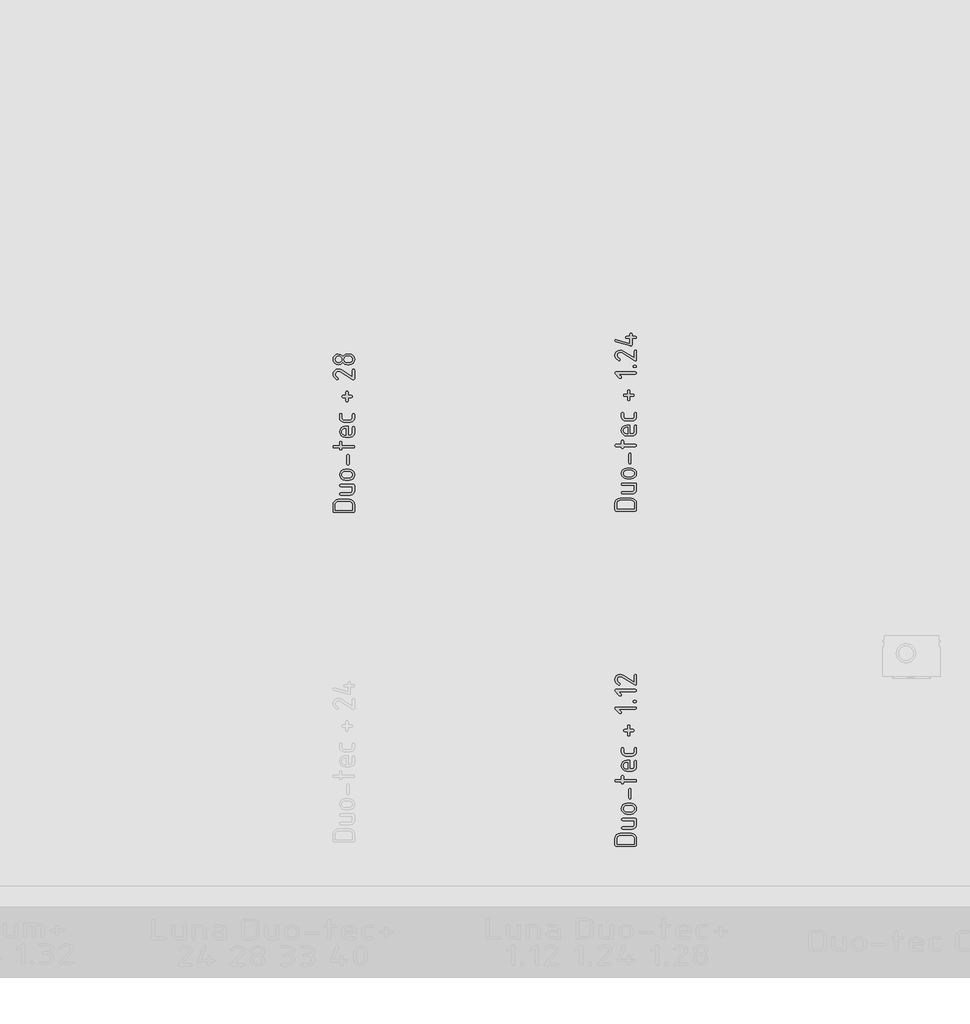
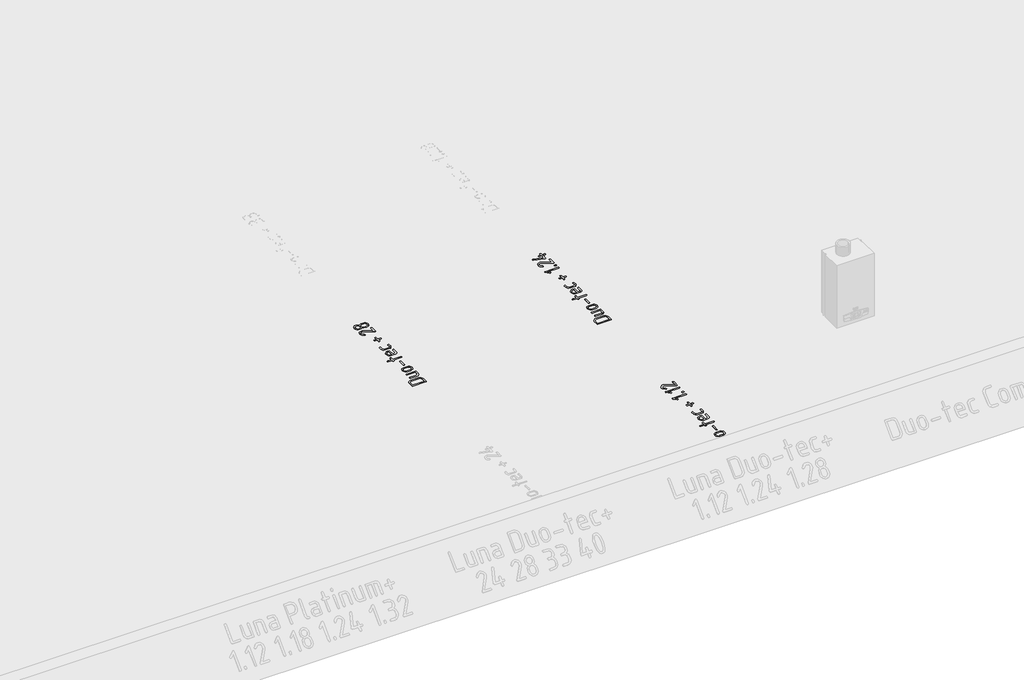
# One storey, part 25 of 37: 3 proxies.
"""IFC4 building model written with IfcOpenShell, lengths in millimetres."""

from ifc_helpers import new_model, si_unit, frame, origin, place, context, project, spatial, polyline, outline, extrude, element, save

model = new_model("IFC4")

# Units and contexts
model_context = context("Model", 3, world=origin())
ifc_project = project(units=[si_unit("LENGTHUNIT", "METRE", prefix="MILLI")], contexts=[model_context])

# Site, building, storey
site = spatial("IfcSite", under=ifc_project)
building = spatial("IfcBuilding", under=site)
storey = spatial("IfcBuildingStorey", under=building, Name="01_Стартовый вид_Площадка", Elevation=0.0)

# Proxies
placement = place(None, origin())
element("IfcBuildingElementProxy", 1, Name="150 мм", ObjectType="150 мм", at=placement, inside=storey, context=model_context, shape_type="SweptSolid", body=[
    extrude(outline(polyline([(19786.8818775, -4365.7608529), (19781.2187379, -4363.8931155), (19779.3310247, -4358.2899033), (19779.3310247, -4313.544109), (19782.0577216, -4299.0716412), (19790.2378121, -4287.0561968), (19802.393087, -4278.9659974), (19817.0453371, -4276.2692643), (19892.4739618, -4276.2692643), (19906.9763934, -4278.9959611), (19919.161632, -4287.1760516), (19927.4316136, -4299.2214597), (19930.1882742, -4313.544109), (19930.1882742, -4358.2899033), (19928.300561, -4363.8931155), (19922.6374214, -4365.7608529), (19786.8818775, -4365.7608529)]), holes=[polyline([(19794.6724399, -4350.4194377), (19914.846859, -4350.4194377), (19914.846859, -4313.6639638), (19913.1988554, -4305.1892302), (19908.2548446, -4298.0628632), (19900.9736651, -4293.2237254), (19892.3141554, -4291.6106795), (19817.2051435, -4291.6106795), (19808.5456337, -4293.2237254), (19801.2644543, -4298.0628632), (19796.3204435, -4305.1892302), (19794.6724399, -4313.6639638), (19794.6724399, -4350.4194377)])]), frame((0.0, 0.0, -10.0), z_axis=(0.0, 0.0, 1.0), x_axis=(1.0, 0.0, 0.0)), (0.0, 0.0, 1.0), 10.0),
    extrude(outline(polyline([(19832.8262199, -4171.4362604), (19922.7173246, -4171.4362604), (19928.3205368, -4173.2940099), (19930.1882742, -4178.8672584), (19930.1882742, -4215.9423451), (19928.0208998, -4227.4384186), (19921.5187765, -4236.9968394), (19911.8604767, -4243.4390353), (19900.2245726, -4245.5864339), (19832.8262199, -4245.5864339), (19827.2230077, -4243.668757), (19825.3552703, -4237.9157263), (19827.2230077, -4232.1626956), (19832.8262199, -4230.2450187), (19899.9449114, -4230.2450187), (19910.4322069, -4225.9701973), (19914.846859, -4215.7425871), (19914.846859, -4186.7776756), (19832.8262199, -4186.7776756), (19827.2230077, -4184.8599987), (19825.3552703, -4179.106968), (19827.2230077, -4173.3539373), (19832.8262199, -4171.4362604)])), frame((0.0, 0.0, -10.0), z_axis=(0.0, 0.0, 1.0), x_axis=(1.0, 0.0, 0.0)), (0.0, 0.0, 1.0), 10.0),
    extrude(outline(polyline([(19892.753623, -4140.75343), (19862.7899215, -4140.75343), (19848.3973568, -4138.041715), (19836.3020093, -4129.9065701), (19828.0919551, -4117.9260834), (19825.3552703, -4103.6783433), (19828.0619914, -4089.2807847), (19836.1821545, -4077.3302617), (19848.2475383, -4069.2850079), (19862.7899215, -4066.6032566), (19892.753623, -4066.6032566), (19907.1461877, -4069.3149716), (19919.2415352, -4077.4501165), (19927.4515894, -4089.4306032), (19930.1882742, -4103.6783433), (19927.4515894, -4117.9260834), (19919.2415352, -4129.9065701), (19907.1461877, -4138.041715), (19892.753623, -4140.75343)]), holes=[polyline([(19892.3141554, -4081.9446718), (19862.3105022, -4081.9446718), (19853.6809562, -4083.5377419), (19846.4097646, -4088.3169523), (19841.4657539, -4095.3434403), (19839.8177503, -4103.6783433), (19841.4657539, -4112.0132463), (19846.4097646, -4119.0397343), (19853.6809562, -4123.8189447), (19862.3105022, -4125.4120148), (19892.3141554, -4125.4120148), (19901.0236047, -4123.8339266), (19908.2947962, -4119.0996617), (19913.2088433, -4112.0881555), (19914.846859, -4103.6783433), (19913.1988554, -4095.3434403), (19908.2548446, -4088.3169523), (19900.9736651, -4083.5377419), (19892.3141554, -4081.9446718)])]), frame((0.0, 0.0, -10.0), z_axis=(0.0, 0.0, 1.0), x_axis=(1.0, 0.0, 0.0)), (0.0, 0.0, 1.0), 10.0),
    extrude(outline(polyline([(19891.8347362, -3968.7617831), (19891.8347362, -4028.7690894), (19889.9170593, -4034.4022653), (19884.1640286, -4036.2799906), (19878.4109979, -4034.4022653), (19876.493321, -4028.7690894), (19876.493321, -3968.7617831), (19878.4109979, -3963.1286072), (19884.1640286, -3961.2508819), (19889.9170593, -3963.1286072), (19891.8347362, -3968.7617831)])), frame((0.0, 0.0, -10.0), z_axis=(0.0, 0.0, 1.0), x_axis=(1.0, 0.0, 0.0)), (0.0, 0.0, 1.0), 10.0),
    extrude(outline(polyline([(19840.6966855, -3915.7460071), (19840.6966855, -3923.2569083), (19838.7790086, -3928.8900842), (19833.0259779, -3930.7678095), (19827.2729472, -3928.8900842), (19825.3552703, -3923.2569083), (19825.3552703, -3915.7460071), (19787.0017323, -3915.7460071), (19781.2487016, -3913.8283302), (19779.3310247, -3908.0752995), (19781.2487016, -3902.3222688), (19787.0017323, -3900.4045919), (19825.3552703, -3900.4045919), (19825.3552703, -3877.8718884), (19827.2729472, -3872.2686762), (19833.0259779, -3870.4009388), (19838.7790086, -3872.2686762), (19840.6966855, -3877.8718884), (19840.6966855, -3900.4045919), (19922.7173246, -3900.4045919), (19928.3205368, -3902.3222688), (19930.1882742, -3908.0752995), (19928.3205368, -3913.8283302), (19922.7173246, -3915.7460071), (19840.6966855, -3915.7460071)])), frame((0.0, 0.0, -10.0), z_axis=(0.0, 0.0, 1.0), x_axis=(1.0, 0.0, 0.0)), (0.0, 0.0, 1.0), 10.0),
    extrude(outline(polyline([(19884.1640286, -3826.2544185), (19899.5054438, -3826.2544185), (19910.3123521, -3821.8197907), (19914.846859, -3811.2725677), (19914.846859, -3773.7580134), (19916.7645359, -3768.1248375), (19922.5175666, -3766.2471122), (19928.2705973, -3768.1248375), (19930.1882742, -3773.7580134), (19930.1882742, -3811.2725677), (19928.0208998, -3822.9284476), (19921.5187765, -3832.726578), (19911.8604767, -3839.3785198), (19900.2245726, -3841.5958337), (19862.7899215, -3841.5958337), (19848.3973568, -3838.8142034), (19836.3020093, -3830.4693125), (19828.0919551, -3818.2291404), (19825.3552703, -3803.7616665), (19828.0120519, -3789.1843257), (19835.9823965, -3777.0939721), (19847.8280465, -3768.9588272), (19862.1107442, -3766.2471122), (19884.1640286, -3766.2471122), (19884.1640286, -3826.2544185)]), holes=[polyline([(19838.8189602, -3803.7616665), (19840.4669638, -3812.3912126), (19845.4109746, -3819.6624041), (19852.6821661, -3824.6064149), (19861.3117122, -3826.2544185), (19868.8226134, -3826.2544185), (19868.8226134, -3781.2689145), (19861.3117122, -3781.2689145), (19852.6821661, -3782.9169181), (19845.4109746, -3787.8609289), (19840.4669638, -3795.1321205), (19838.8189602, -3803.7616665)])]), frame((0.0, 0.0, -10.0), z_axis=(0.0, 0.0, 1.0), x_axis=(1.0, 0.0, 0.0)), (0.0, 0.0, 1.0), 10.0),
    extrude(outline(polyline([(19855.5187299, -3721.4214146), (19900.0248146, -3721.4214146), (19910.4721585, -3716.9867868), (19914.846859, -3706.4395639), (19914.846859, -3683.9068603), (19916.7645359, -3678.3036481), (19922.5175666, -3676.4359107), (19928.2705973, -3678.3036481), (19930.1882742, -3683.9068603), (19930.1882742, -3706.4395639), (19928.0208998, -3718.0954438), (19921.5187765, -3727.8935742), (19911.8604767, -3734.5455159), (19900.2245726, -3736.7628298), (19855.3189719, -3736.7628298), (19843.6830678, -3734.5455159), (19834.024768, -3727.8935742), (19827.5226447, -3718.0954438), (19825.3552703, -3706.4395639), (19825.3552703, -3683.9068603), (19827.2729472, -3678.3036481), (19833.0259779, -3676.4359107), (19838.7790086, -3678.3036481), (19840.6966855, -3683.9068603), (19840.6966855, -3706.4395639), (19845.0314343, -3717.0467142), (19855.5187299, -3721.4214146)])), frame((0.0, 0.0, -10.0), z_axis=(0.0, 0.0, 1.0), x_axis=(1.0, 0.0, 0.0)), (0.0, 0.0, 1.0), 10.0),
    extrude(outline(polyline([(19884.1640286, -3565.4503601), (19884.1640286, -3587.9431121), (19882.2463517, -3593.576288), (19876.493321, -3595.4540133), (19870.7402903, -3593.576288), (19868.8226134, -3587.9431121), (19868.8226134, -3565.4503601), (19847.7281675, -3565.4503601), (19842.454556, -3563.5326832), (19840.6966855, -3557.7796525), (19842.454556, -3552.0266218), (19847.7281675, -3550.1089449), (19868.8226134, -3550.1089449), (19868.8226134, -3527.616193), (19870.7402903, -3521.9830171), (19876.493321, -3520.1052918), (19882.2463517, -3521.9830171), (19884.1640286, -3527.616193), (19884.1640286, -3550.1089449), (19907.1761514, -3550.1089449), (19912.9291821, -3552.0266218), (19914.846859, -3557.7796525), (19912.9291821, -3563.5326832), (19907.1761514, -3565.4503601), (19884.1640286, -3565.4503601)])), frame((0.0, 0.0, -10.0), z_axis=(0.0, 0.0, 1.0), x_axis=(1.0, 0.0, 0.0)), (0.0, 0.0, 1.0), 10.0),
    extrude(outline(polyline([(19805.0598565, -3409.4793056), (19822.3589002, -3426.7383977), (19824.5162867, -3431.9720576), (19822.6385614, -3437.6052335), (19817.0053855, -3439.4829588), (19811.7717256, -3437.2856207), (19782.2874433, -3407.9611447), (19779.3310247, -3401.808598), (19781.2187379, -3396.0555673), (19786.8818775, -3394.1378904), (19922.6374214, -3394.1378904), (19928.300561, -3396.0555673), (19930.1882742, -3401.808598), (19928.300561, -3407.5616287), (19922.6374214, -3409.4793056), (19805.0598565, -3409.4793056)])), frame((0.0, 0.0, -10.0), z_axis=(0.0, 0.0, 1.0), x_axis=(1.0, 0.0, 0.0)), (0.0, 0.0, 1.0), 10.0),
    extrude(outline(polyline([(19914.846859, -3363.45506), (19909.0938283, -3361.5373831), (19907.1761514, -3355.7843524), (19909.0938283, -3350.0313217), (19914.846859, -3348.1136448), (19922.5175666, -3348.1136448), (19928.2705973, -3350.0313217), (19930.1882742, -3355.7843524), (19928.2705973, -3361.5373831), (19922.5175666, -3363.45506), (19914.846859, -3363.45506)])), frame((0.0, 0.0, -10.0), z_axis=(0.0, 0.0, 1.0), x_axis=(1.0, 0.0, 0.0)), (0.0, 0.0, 1.0), 10.0),
    extrude(outline(polyline([(19805.0598565, -3286.747984), (19822.3589002, -3304.0070761), (19824.5162867, -3309.240736), (19822.6385614, -3314.8739119), (19817.0053855, -3316.7516372), (19811.7717256, -3314.5542991), (19782.2874433, -3285.2298232), (19779.3310247, -3279.0772764), (19781.2187379, -3273.3242457), (19786.8818775, -3271.4065688), (19922.6374214, -3271.4065688), (19928.300561, -3273.3242457), (19930.1882742, -3279.0772764), (19928.300561, -3284.8303071), (19922.6374214, -3286.747984), (19805.0598565, -3286.747984)])), frame((0.0, 0.0, -10.0), z_axis=(0.0, 0.0, 1.0), x_axis=(1.0, 0.0, 0.0)), (0.0, 0.0, 1.0), 10.0),
    extrude(outline(polyline([(19779.3310247, -3203.5687485), (19782.0826913, -3189.1412262), (19790.3376911, -3177.0209089), (19802.49796, -3168.7958729), (19816.9654339, -3166.0541942), (19827.7623543, -3167.7621252), (19838.6591538, -3172.8859181), (19914.846859, -3220.1486634), (19914.846859, -3173.5650954), (19916.7645359, -3167.9319195), (19922.5175666, -3166.0541942), (19928.2705973, -3167.9319195), (19930.1882742, -3173.5650954), (19930.1882742, -3233.5724017), (19928.3105489, -3239.2055776), (19922.677373, -3241.0833029), (19918.3226484, -3239.8048516), (19829.7099949, -3184.8314471), (19817.2450951, -3181.0759965), (19808.5805914, -3182.7240001), (19801.2844301, -3187.6680109), (19796.3254375, -3194.9392025), (19794.6724399, -3203.5687485), (19799.386729, -3215.8039267), (19813.5295961, -3227.1002421), (19817.1651919, -3233.5724017), (19815.2874666, -3239.2055776), (19809.6542907, -3241.0833029), (19806.5780173, -3240.364174), (19786.1427729, -3224.1937631), (19781.0339618, -3214.4380813), (19779.3310247, -3203.5687485)])), frame((0.0, 0.0, -10.0), z_axis=(0.0, 0.0, 1.0), x_axis=(1.0, 0.0, 0.0)), (0.0, 0.0, 1.0), 10.0),
])
element("IfcBuildingElementProxy", 2, Name="150 мм", ObjectType="150 мм", at=placement, inside=storey, context=model_context, shape_type="SweptSolid", body=[
    extrude(outline(polyline([(19786.8818775, -2025.7608529), (19781.2187379, -2023.8931155), (19779.3310247, -2018.2899033), (19779.3310247, -1973.544109), (19782.0577216, -1959.0716412), (19790.2378121, -1947.0561968), (19802.393087, -1938.9659974), (19817.0453371, -1936.2692643), (19892.4739618, -1936.2692643), (19906.9763934, -1938.9959611), (19919.161632, -1947.1760516), (19927.4316136, -1959.2214597), (19930.1882742, -1973.544109), (19930.1882742, -2018.2899033), (19928.300561, -2023.8931155), (19922.6374214, -2025.7608529), (19786.8818775, -2025.7608529)]), holes=[polyline([(19794.6724399, -2010.4194377), (19914.846859, -2010.4194377), (19914.846859, -1973.6639638), (19913.1988554, -1965.1892302), (19908.2548446, -1958.0628632), (19900.9736651, -1953.2237254), (19892.3141554, -1951.6106795), (19817.2051435, -1951.6106795), (19808.5456337, -1953.2237254), (19801.2644543, -1958.0628632), (19796.3204435, -1965.1892302), (19794.6724399, -1973.6639638), (19794.6724399, -2010.4194377)])]), frame((0.0, 0.0, -10.0), z_axis=(0.0, 0.0, 1.0), x_axis=(1.0, 0.0, 0.0)), (0.0, 0.0, 1.0), 10.0),
    extrude(outline(polyline([(19832.8262199, -1831.4362604), (19922.7173246, -1831.4362604), (19928.3205368, -1833.2940099), (19930.1882742, -1838.8672584), (19930.1882742, -1875.9423451), (19928.0208998, -1887.4384186), (19921.5187765, -1896.9968394), (19911.8604767, -1903.4390353), (19900.2245726, -1905.5864339), (19832.8262199, -1905.5864339), (19827.2230077, -1903.668757), (19825.3552703, -1897.9157263), (19827.2230077, -1892.1626956), (19832.8262199, -1890.2450187), (19899.9449114, -1890.2450187), (19910.4322069, -1885.9701973), (19914.846859, -1875.7425871), (19914.846859, -1846.7776756), (19832.8262199, -1846.7776756), (19827.2230077, -1844.8599987), (19825.3552703, -1839.106968), (19827.2230077, -1833.3539373), (19832.8262199, -1831.4362604)])), frame((0.0, 0.0, -10.0), z_axis=(0.0, 0.0, 1.0), x_axis=(1.0, 0.0, 0.0)), (0.0, 0.0, 1.0), 10.0),
    extrude(outline(polyline([(19892.753623, -1800.75343), (19862.7899215, -1800.75343), (19848.3973568, -1798.041715), (19836.3020093, -1789.9065701), (19828.0919551, -1777.9260834), (19825.3552703, -1763.6783433), (19828.0619914, -1749.2807847), (19836.1821545, -1737.3302617), (19848.2475383, -1729.2850079), (19862.7899215, -1726.6032566), (19892.753623, -1726.6032566), (19907.1461877, -1729.3149716), (19919.2415352, -1737.4501165), (19927.4515894, -1749.4306032), (19930.1882742, -1763.6783433), (19927.4515894, -1777.9260834), (19919.2415352, -1789.9065701), (19907.1461877, -1798.041715), (19892.753623, -1800.75343)]), holes=[polyline([(19892.3141554, -1741.9446718), (19862.3105022, -1741.9446718), (19853.6809562, -1743.5377419), (19846.4097646, -1748.3169523), (19841.4657539, -1755.3434403), (19839.8177503, -1763.6783433), (19841.4657539, -1772.0132463), (19846.4097646, -1779.0397343), (19853.6809562, -1783.8189447), (19862.3105022, -1785.4120148), (19892.3141554, -1785.4120148), (19901.0236047, -1783.8339266), (19908.2947962, -1779.0996617), (19913.2088433, -1772.0881555), (19914.846859, -1763.6783433), (19913.1988554, -1755.3434403), (19908.2548446, -1748.3169523), (19900.9736651, -1743.5377419), (19892.3141554, -1741.9446718)])]), frame((0.0, 0.0, -10.0), z_axis=(0.0, 0.0, 1.0), x_axis=(1.0, 0.0, 0.0)), (0.0, 0.0, 1.0), 10.0),
    extrude(outline(polyline([(19891.8347362, -1628.7617831), (19891.8347362, -1688.7690894), (19889.9170593, -1694.4022653), (19884.1640286, -1696.2799906), (19878.4109979, -1694.4022653), (19876.493321, -1688.7690894), (19876.493321, -1628.7617831), (19878.4109979, -1623.1286072), (19884.1640286, -1621.2508819), (19889.9170593, -1623.1286072), (19891.8347362, -1628.7617831)])), frame((0.0, 0.0, -10.0), z_axis=(0.0, 0.0, 1.0), x_axis=(1.0, 0.0, 0.0)), (0.0, 0.0, 1.0), 10.0),
    extrude(outline(polyline([(19840.6966855, -1575.7460071), (19840.6966855, -1583.2569083), (19838.7790086, -1588.8900842), (19833.0259779, -1590.7678095), (19827.2729472, -1588.8900842), (19825.3552703, -1583.2569083), (19825.3552703, -1575.7460071), (19787.0017323, -1575.7460071), (19781.2487016, -1573.8283302), (19779.3310247, -1568.0752995), (19781.2487016, -1562.3222688), (19787.0017323, -1560.4045919), (19825.3552703, -1560.4045919), (19825.3552703, -1537.8718884), (19827.2729472, -1532.2686762), (19833.0259779, -1530.4009388), (19838.7790086, -1532.2686762), (19840.6966855, -1537.8718884), (19840.6966855, -1560.4045919), (19922.7173246, -1560.4045919), (19928.3205368, -1562.3222688), (19930.1882742, -1568.0752995), (19928.3205368, -1573.8283302), (19922.7173246, -1575.7460071), (19840.6966855, -1575.7460071)])), frame((0.0, 0.0, -10.0), z_axis=(0.0, 0.0, 1.0), x_axis=(1.0, 0.0, 0.0)), (0.0, 0.0, 1.0), 10.0),
    extrude(outline(polyline([(19884.1640286, -1486.2544185), (19899.5054438, -1486.2544185), (19910.3123521, -1481.8197907), (19914.846859, -1471.2725677), (19914.846859, -1433.7580134), (19916.7645359, -1428.1248375), (19922.5175666, -1426.2471122), (19928.2705973, -1428.1248375), (19930.1882742, -1433.7580134), (19930.1882742, -1471.2725677), (19928.0208998, -1482.9284476), (19921.5187765, -1492.726578), (19911.8604767, -1499.3785198), (19900.2245726, -1501.5958337), (19862.7899215, -1501.5958337), (19848.3973568, -1498.8142034), (19836.3020093, -1490.4693125), (19828.0919551, -1478.2291404), (19825.3552703, -1463.7616665), (19828.0120519, -1449.1843257), (19835.9823965, -1437.0939721), (19847.8280465, -1428.9588272), (19862.1107442, -1426.2471122), (19884.1640286, -1426.2471122), (19884.1640286, -1486.2544185)]), holes=[polyline([(19838.8189602, -1463.7616665), (19840.4669638, -1472.3912126), (19845.4109746, -1479.6624041), (19852.6821661, -1484.6064149), (19861.3117122, -1486.2544185), (19868.8226134, -1486.2544185), (19868.8226134, -1441.2689145), (19861.3117122, -1441.2689145), (19852.6821661, -1442.9169181), (19845.4109746, -1447.8609289), (19840.4669638, -1455.1321205), (19838.8189602, -1463.7616665)])]), frame((0.0, 0.0, -10.0), z_axis=(0.0, 0.0, 1.0), x_axis=(1.0, 0.0, 0.0)), (0.0, 0.0, 1.0), 10.0),
    extrude(outline(polyline([(19855.5187299, -1381.4214146), (19900.0248146, -1381.4214146), (19910.4721585, -1376.9867868), (19914.846859, -1366.4395639), (19914.846859, -1343.9068603), (19916.7645359, -1338.3036481), (19922.5175666, -1336.4359107), (19928.2705973, -1338.3036481), (19930.1882742, -1343.9068603), (19930.1882742, -1366.4395639), (19928.0208998, -1378.0954438), (19921.5187765, -1387.8935742), (19911.8604767, -1394.5455159), (19900.2245726, -1396.7628298), (19855.3189719, -1396.7628298), (19843.6830678, -1394.5455159), (19834.024768, -1387.8935742), (19827.5226447, -1378.0954438), (19825.3552703, -1366.4395639), (19825.3552703, -1343.9068603), (19827.2729472, -1338.3036481), (19833.0259779, -1336.4359107), (19838.7790086, -1338.3036481), (19840.6966855, -1343.9068603), (19840.6966855, -1366.4395639), (19845.0314343, -1377.0467142), (19855.5187299, -1381.4214146)])), frame((0.0, 0.0, -10.0), z_axis=(0.0, 0.0, 1.0), x_axis=(1.0, 0.0, 0.0)), (0.0, 0.0, 1.0), 10.0),
    extrude(outline(polyline([(19884.1640286, -1225.4503601), (19884.1640286, -1247.9431121), (19882.2463517, -1253.576288), (19876.493321, -1255.4540133), (19870.7402903, -1253.576288), (19868.8226134, -1247.9431121), (19868.8226134, -1225.4503601), (19847.7281675, -1225.4503601), (19842.454556, -1223.5326832), (19840.6966855, -1217.7796525), (19842.454556, -1212.0266218), (19847.7281675, -1210.1089449), (19868.8226134, -1210.1089449), (19868.8226134, -1187.616193), (19870.7402903, -1181.9830171), (19876.493321, -1180.1052918), (19882.2463517, -1181.9830171), (19884.1640286, -1187.616193), (19884.1640286, -1210.1089449), (19907.1761514, -1210.1089449), (19912.9291821, -1212.0266218), (19914.846859, -1217.7796525), (19912.9291821, -1223.5326832), (19907.1761514, -1225.4503601), (19884.1640286, -1225.4503601)])), frame((0.0, 0.0, -10.0), z_axis=(0.0, 0.0, 1.0), x_axis=(1.0, 0.0, 0.0)), (0.0, 0.0, 1.0), 10.0),
    extrude(outline(polyline([(19805.0598565, -1069.4793056), (19822.3589002, -1086.7383977), (19824.5162867, -1091.9720576), (19822.6385614, -1097.6052335), (19817.0053855, -1099.4829588), (19811.7717256, -1097.2856207), (19782.2874433, -1067.9611447), (19779.3310247, -1061.808598), (19781.2187379, -1056.0555673), (19786.8818775, -1054.1378904), (19922.6374214, -1054.1378904), (19928.300561, -1056.0555673), (19930.1882742, -1061.808598), (19928.300561, -1067.5616287), (19922.6374214, -1069.4793056), (19805.0598565, -1069.4793056)])), frame((0.0, 0.0, -10.0), z_axis=(0.0, 0.0, 1.0), x_axis=(1.0, 0.0, 0.0)), (0.0, 0.0, 1.0), 10.0),
    extrude(outline(polyline([(19914.846859, -1023.45506), (19909.0938283, -1021.5373831), (19907.1761514, -1015.7843524), (19909.0938283, -1010.0313217), (19914.846859, -1008.1136448), (19922.5175666, -1008.1136448), (19928.2705973, -1010.0313217), (19930.1882742, -1015.7843524), (19928.2705973, -1021.5373831), (19922.5175666, -1023.45506), (19914.846859, -1023.45506)])), frame((0.0, 0.0, -10.0), z_axis=(0.0, 0.0, 1.0), x_axis=(1.0, 0.0, 0.0)), (0.0, 0.0, 1.0), 10.0),
    extrude(outline(polyline([(19779.3310247, -940.2758245), (19782.0826913, -925.8483022), (19790.3376911, -913.7279849), (19802.49796, -905.5029488), (19816.9654339, -902.7612702), (19827.7623543, -904.4692011), (19838.6591538, -909.5929941), (19914.846859, -956.8557394), (19914.846859, -910.2721713), (19916.7645359, -904.6389955), (19922.5175666, -902.7612702), (19928.2705973, -904.6389955), (19930.1882742, -910.2721713), (19930.1882742, -970.2794777), (19928.3105489, -975.9126536), (19922.677373, -977.7903789), (19918.3226484, -976.5119276), (19829.7099949, -921.5385231), (19817.2450951, -917.7830725), (19808.5805914, -919.4310761), (19801.2844301, -924.3750869), (19796.3254375, -931.6462785), (19794.6724399, -940.2758245), (19799.386729, -952.5110026), (19813.5295961, -963.8073181), (19817.1651919, -970.2794777), (19815.2874666, -975.9126536), (19809.6542907, -977.7903789), (19806.5780173, -977.07125), (19786.1427729, -960.9008391), (19781.0339618, -951.1451572), (19779.3310247, -940.2758245)])), frame((0.0, 0.0, -10.0), z_axis=(0.0, 0.0, 1.0), x_axis=(1.0, 0.0, 0.0)), (0.0, 0.0, 1.0), 10.0),
    extrude(outline(polyline([(19891.9945426, -873.9961167), (19889.9570109, -873.756407), (19784.8043942, -843.7527539), (19780.6993671, -841.1359239), (19779.3310247, -836.4815623), (19781.1987621, -830.8483864), (19786.8019743, -828.9706611), (19788.9593608, -829.3302255), (19884.1640286, -856.5772182), (19884.1640286, -821.4597599), (19861.631325, -821.4597599), (19856.0281128, -819.542083), (19854.1603754, -813.7890523), (19856.0281128, -808.0360216), (19861.631325, -806.1183447), (19884.1640286, -806.1183447), (19884.1640286, -791.0965423), (19886.0817055, -785.4933302), (19891.8347362, -783.6255928), (19897.5877669, -785.4933302), (19899.5054438, -791.0965423), (19899.5054438, -806.1183447), (19922.5175666, -806.1183447), (19928.2705973, -808.0360216), (19930.1882742, -813.7890523), (19928.2705973, -819.542083), (19922.5175666, -821.4597599), (19899.5054438, -821.4597599), (19899.5054438, -866.4852155), (19897.6277185, -872.1183914), (19891.9945426, -873.9961167)])), frame((0.0, 0.0, -10.0), z_axis=(0.0, 0.0, 1.0), x_axis=(1.0, 0.0, 0.0)), (0.0, 0.0, 1.0), 10.0),
])
element("IfcBuildingElementProxy", 3, Name="150 мм", ObjectType="150 мм", at=placement, inside=storey, context=model_context, shape_type="SweptSolid", body=[
    extrude(outline(polyline([(17819.9837715, -2034.7744624), (17814.3206319, -2032.906725), (17812.4329187, -2027.3035129), (17812.4329187, -1982.5577185), (17815.1596155, -1968.0852507), (17823.3397061, -1956.0698063), (17835.494981, -1947.9796069), (17850.1472311, -1945.2828738), (17925.5758558, -1945.2828738), (17940.0782873, -1948.0095706), (17952.263526, -1956.1896612), (17960.5335076, -1968.2350692), (17963.2901681, -1982.5577185), (17963.2901681, -2027.3035129), (17961.4024549, -2032.906725), (17955.7393153, -2034.7744624), (17819.9837715, -2034.7744624)]), holes=[polyline([(17827.7743339, -2019.4330472), (17947.9487529, -2019.4330472), (17947.9487529, -1982.6775733), (17946.3007494, -1974.2028397), (17941.3567386, -1967.0764727), (17934.0755591, -1962.2373349), (17925.4160494, -1960.624289), (17850.3070375, -1960.624289), (17841.6475277, -1962.2373349), (17834.3663482, -1967.0764727), (17829.4223375, -1974.2028397), (17827.7743339, -1982.6775733), (17827.7743339, -2019.4330472)])]), frame((0.0, 0.0, -10.0), z_axis=(0.0, 0.0, 1.0), x_axis=(1.0, 0.0, 0.0)), (0.0, 0.0, 1.0), 10.0),
    extrude(outline(polyline([(17865.9281139, -1840.4498699), (17955.8192185, -1840.4498699), (17961.4224307, -1842.3076194), (17963.2901681, -1847.8808679), (17963.2901681, -1884.9559547), (17961.1227937, -1896.4520281), (17954.6206705, -1906.0104489), (17944.9623707, -1912.4526448), (17933.3264666, -1914.6000434), (17865.9281139, -1914.6000434), (17860.3249017, -1912.6823665), (17858.4571643, -1906.9293358), (17860.3249017, -1901.1763051), (17865.9281139, -1899.2586282), (17933.0468054, -1899.2586282), (17943.5341009, -1894.9838068), (17947.9487529, -1884.7561966), (17947.9487529, -1855.7912851), (17865.9281139, -1855.7912851), (17860.3249017, -1853.8736082), (17858.4571643, -1848.1205775), (17860.3249017, -1842.3675468), (17865.9281139, -1840.4498699)])), frame((0.0, 0.0, -10.0), z_axis=(0.0, 0.0, 1.0), x_axis=(1.0, 0.0, 0.0)), (0.0, 0.0, 1.0), 10.0),
    extrude(outline(polyline([(17925.855517, -1809.7670395), (17895.8918154, -1809.7670395), (17881.4992508, -1807.0553246), (17869.4039033, -1798.9201796), (17861.193849, -1786.9396929), (17858.4571643, -1772.6919528), (17861.1638853, -1758.2943942), (17869.2840485, -1746.3438712), (17881.3494323, -1738.2986174), (17895.8918154, -1735.6168661), (17925.855517, -1735.6168661), (17940.2480816, -1738.3285811), (17952.3434292, -1746.4637261), (17960.5534834, -1758.4442127), (17963.2901681, -1772.6919528), (17960.5534834, -1786.9396929), (17952.3434292, -1798.9201796), (17940.2480816, -1807.0553246), (17925.855517, -1809.7670395)]), holes=[polyline([(17925.4160494, -1750.9582813), (17895.4123962, -1750.9582813), (17886.7828502, -1752.5513514), (17879.5116586, -1757.3305618), (17874.5676478, -1764.3570498), (17872.9196442, -1772.6919528), (17874.5676478, -1781.0268558), (17879.5116586, -1788.0533438), (17886.7828502, -1792.8325542), (17895.4123962, -1794.4256243), (17925.4160494, -1794.4256243), (17934.1254986, -1792.8475361), (17941.3966902, -1788.1132712), (17946.3107373, -1781.1017651), (17947.9487529, -1772.6919528), (17946.3007494, -1764.3570498), (17941.3567386, -1757.3305618), (17934.0755591, -1752.5513514), (17925.4160494, -1750.9582813)])]), frame((0.0, 0.0, -10.0), z_axis=(0.0, 0.0, 1.0), x_axis=(1.0, 0.0, 0.0)), (0.0, 0.0, 1.0), 10.0),
    extrude(outline(polyline([(17924.9366301, -1637.7753926), (17924.9366301, -1697.7826989), (17923.0189532, -1703.4158748), (17917.2659225, -1705.2936001), (17911.5128918, -1703.4158748), (17909.5952149, -1697.7826989), (17909.5952149, -1637.7753926), (17911.5128918, -1632.1422167), (17917.2659225, -1630.2644914), (17923.0189532, -1632.1422167), (17924.9366301, -1637.7753926)])), frame((0.0, 0.0, -10.0), z_axis=(0.0, 0.0, 1.0), x_axis=(1.0, 0.0, 0.0)), (0.0, 0.0, 1.0), 10.0),
    extrude(outline(polyline([(17873.7985795, -1584.7596166), (17873.7985795, -1592.2705178), (17871.8809026, -1597.9036937), (17866.1278719, -1599.781419), (17860.3748412, -1597.9036937), (17858.4571643, -1592.2705178), (17858.4571643, -1584.7596166), (17820.1036263, -1584.7596166), (17814.3505956, -1582.8419397), (17812.4329187, -1577.088909), (17814.3505956, -1571.3358783), (17820.1036263, -1569.4182014), (17858.4571643, -1569.4182014), (17858.4571643, -1546.8854979), (17860.3748412, -1541.2822857), (17866.1278719, -1539.4145483), (17871.8809026, -1541.2822857), (17873.7985795, -1546.8854979), (17873.7985795, -1569.4182014), (17955.8192185, -1569.4182014), (17961.4224307, -1571.3358783), (17963.2901681, -1577.088909), (17961.4224307, -1582.8419397), (17955.8192185, -1584.7596166), (17873.7985795, -1584.7596166)])), frame((0.0, 0.0, -10.0), z_axis=(0.0, 0.0, 1.0), x_axis=(1.0, 0.0, 0.0)), (0.0, 0.0, 1.0), 10.0),
    extrude(outline(polyline([(17917.2659225, -1495.268028), (17932.6073377, -1495.268028), (17943.4142461, -1490.8334002), (17947.9487529, -1480.2861772), (17947.9487529, -1442.7716229), (17949.8664298, -1437.138447), (17955.6194605, -1435.2607217), (17961.3724912, -1437.138447), (17963.2901681, -1442.7716229), (17963.2901681, -1480.2861772), (17961.1227937, -1491.9420571), (17954.6206705, -1501.7401875), (17944.9623707, -1508.3921293), (17933.3264666, -1510.6094432), (17895.8918154, -1510.6094432), (17881.4992508, -1507.8278129), (17869.4039033, -1499.482922), (17861.193849, -1487.2427499), (17858.4571643, -1472.775276), (17861.1139458, -1458.1979352), (17869.0842904, -1446.1075816), (17880.9299405, -1437.9724367), (17895.2126382, -1435.2607217), (17917.2659225, -1435.2607217), (17917.2659225, -1495.268028)]), holes=[polyline([(17871.9208542, -1472.775276), (17873.5688578, -1481.4048221), (17878.5128685, -1488.6760136), (17885.7840601, -1493.6200244), (17894.4136062, -1495.268028), (17901.9245073, -1495.268028), (17901.9245073, -1450.2825241), (17894.4136062, -1450.2825241), (17885.7840601, -1451.9305276), (17878.5128685, -1456.8745384), (17873.5688578, -1464.14573), (17871.9208542, -1472.775276)])]), frame((0.0, 0.0, -10.0), z_axis=(0.0, 0.0, 1.0), x_axis=(1.0, 0.0, 0.0)), (0.0, 0.0, 1.0), 10.0),
    extrude(outline(polyline([(17888.6206239, -1390.4350241), (17933.1267086, -1390.4350241), (17943.5740525, -1386.0003963), (17947.9487529, -1375.4531734), (17947.9487529, -1352.9204698), (17949.8664298, -1347.3172576), (17955.6194605, -1345.4495202), (17961.3724912, -1347.3172576), (17963.2901681, -1352.9204698), (17963.2901681, -1375.4531734), (17961.1227937, -1387.1090533), (17954.6206705, -1396.9071837), (17944.9623707, -1403.5591254), (17933.3264666, -1405.7764393), (17888.4208658, -1405.7764393), (17876.7849617, -1403.5591254), (17867.1266619, -1396.9071837), (17860.6245387, -1387.1090533), (17858.4571643, -1375.4531734), (17858.4571643, -1352.9204698), (17860.3748412, -1347.3172576), (17866.1278719, -1345.4495202), (17871.8809026, -1347.3172576), (17873.7985795, -1352.9204698), (17873.7985795, -1375.4531734), (17878.1333283, -1386.0603237), (17888.6206239, -1390.4350241)])), frame((0.0, 0.0, -10.0), z_axis=(0.0, 0.0, 1.0), x_axis=(1.0, 0.0, 0.0)), (0.0, 0.0, 1.0), 10.0),
    extrude(outline(polyline([(17917.2659225, -1234.4639696), (17917.2659225, -1256.9567216), (17915.3482456, -1262.5898975), (17909.5952149, -1264.4676228), (17903.8421842, -1262.5898975), (17901.9245073, -1256.9567216), (17901.9245073, -1234.4639696), (17880.8300615, -1234.4639696), (17875.55645, -1232.5462927), (17873.7985795, -1226.793262), (17875.55645, -1221.0402313), (17880.8300615, -1219.1225544), (17901.9245073, -1219.1225544), (17901.9245073, -1196.6298025), (17903.8421842, -1190.9966266), (17909.5952149, -1189.1189013), (17915.3482456, -1190.9966266), (17917.2659225, -1196.6298025), (17917.2659225, -1219.1225544), (17940.2780453, -1219.1225544), (17946.031076, -1221.0402313), (17947.9487529, -1226.793262), (17946.031076, -1232.5462927), (17940.2780453, -1234.4639696), (17917.2659225, -1234.4639696)])), frame((0.0, 0.0, -10.0), z_axis=(0.0, 0.0, 1.0), x_axis=(1.0, 0.0, 0.0)), (0.0, 0.0, 1.0), 10.0),
    extrude(outline(polyline([(17812.4329187, -1072.0207556), (17815.1845853, -1057.5932333), (17823.4395851, -1045.472916), (17835.5998539, -1037.2478799), (17850.0673279, -1034.5062012), (17860.8642483, -1036.2141322), (17871.7610478, -1041.3379252), (17947.9487529, -1088.6006705), (17947.9487529, -1042.0171024), (17949.8664298, -1036.3839265), (17955.6194605, -1034.5062012), (17961.3724912, -1036.3839265), (17963.2901681, -1042.0171024), (17963.2901681, -1102.0244087), (17961.4124428, -1107.6575846), (17955.7792669, -1109.5353099), (17951.4245423, -1108.2568587), (17862.8118889, -1053.2834542), (17850.3469891, -1049.5280036), (17841.6824854, -1051.1760072), (17834.386324, -1056.120018), (17829.4273314, -1063.3912095), (17827.7743339, -1072.0207556), (17832.4886229, -1084.2559337), (17846.6314901, -1095.5522492), (17850.2670859, -1102.0244087), (17848.3893606, -1107.6575846), (17842.7561847, -1109.5353099), (17839.6799113, -1108.8161811), (17819.2446668, -1092.6457702), (17814.1358557, -1082.8900883), (17812.4329187, -1072.0207556)])), frame((0.0, 0.0, -10.0), z_axis=(0.0, 0.0, 1.0), x_axis=(1.0, 0.0, 0.0)), (0.0, 0.0, 1.0), 10.0),
    extrude(outline(polyline([(17963.2901681, -967.2676549), (17960.5335076, -981.515395), (17952.263526, -993.4958817), (17940.0782873, -1001.6310267), (17925.5758558, -1004.3427417), (17910.4741502, -1004.3427417), (17893.5646346, -1000.5073879), (17880.3106906, -989.0013265), (17867.0567466, -1000.5073879), (17850.1472311, -1004.3427417), (17835.6447995, -1001.6310267), (17823.4595609, -993.4958817), (17815.1895792, -981.515395), (17812.4329187, -967.2676549), (17815.1895792, -953.0199149), (17823.4595609, -941.0394282), (17835.6447995, -932.9042832), (17850.1472311, -930.1925682), (17867.0567466, -934.027922), (17880.3106906, -945.5339834), (17889.4895712, -937.2839776), (17900.5661529, -932.7494707), (17925.5758558, -930.1925682), (17940.0782873, -932.9042832), (17952.263526, -941.0394282), (17960.5335076, -953.0199149), (17963.2901681, -967.2676549)]), holes=[polyline([(17873.2792087, -967.2676549), (17871.6461869, -958.8578427), (17866.7471217, -951.8463365), (17859.490912, -947.1120717), (17850.7864567, -945.5339834), (17842.1569106, -947.1270535), (17834.8857191, -951.9062639), (17829.9417083, -958.932752), (17828.2937047, -967.2676549), (17829.9267265, -975.6774672), (17834.8257917, -982.6889733), (17842.0820014, -987.4232382), (17850.7864567, -989.0013265), (17859.490912, -987.4232382), (17866.7471217, -982.6889733), (17871.6461869, -975.6774672), (17873.2792087, -967.2676549)]), polyline([(17947.9487529, -967.2676549), (17946.3107373, -958.8578427), (17941.3966902, -951.8463365), (17934.1254986, -947.1120717), (17925.4160494, -945.5339834), (17910.4341986, -945.5339834), (17901.8046525, -947.1270535), (17894.533461, -951.9062639), (17889.5894502, -958.932752), (17887.9414466, -967.2676549), (17889.5744684, -975.6774672), (17894.4735336, -982.6889733), (17901.7297433, -987.4232382), (17910.4341986, -989.0013265), (17925.4160494, -989.0013265), (17934.1254986, -987.4232382), (17941.3966902, -982.6889733), (17946.3107373, -975.6774672), (17947.9487529, -967.2676549)])]), frame((0.0, 0.0, -10.0), z_axis=(0.0, 0.0, 1.0), x_axis=(1.0, 0.0, 0.0)), (0.0, 0.0, 1.0), 10.0),
])

save(model, "model.ifc")
